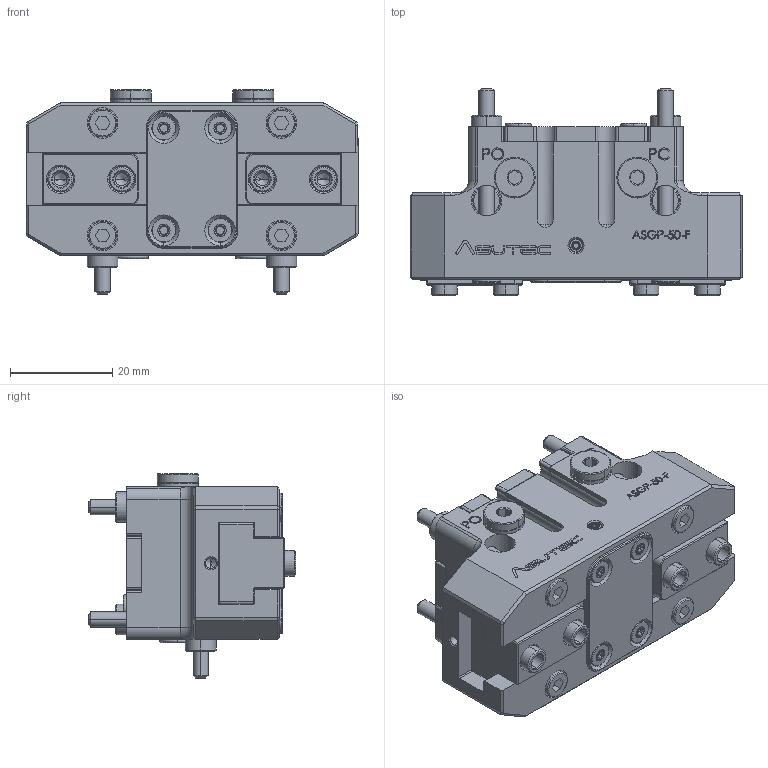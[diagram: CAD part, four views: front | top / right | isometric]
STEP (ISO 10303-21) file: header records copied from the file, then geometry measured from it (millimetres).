
FILE_DESCRIPTION (( 'STEP AP203' ), '1' );
FILE_NAME ('ASUTEC_ASGP-50-F.STEP', '2019-11-01T06:02:49', ( '' ), ( '' ), 'SwSTEP 2.0', 'SolidWorks 2015', '' );
FILE_SCHEMA (( 'CONFIG_CONTROL_DESIGN' ));
Length unit declared in the file: millimetre
Products named in the file (10): ASUTEC_ASGP-50-F; Abdeckung ASGP-50; Greiferbacke ASGP-50_ASGP-50-F <Standard>; Zentrierhuelse-konfigurierbar_D6d4.2L5; 12000092 O-Ring 5x1_Flanschdichtung <Standard>; 12000094 O-Ring 3x1_Flansch <Standard>; 14010075 Blindsstopfen Innensechskant; 10000092 M3x35 DIN912; 10000090 M3x30 DIN912; Grundgehäuse-ASGP-50_Step <Standard>
Assembly tree (20 placements, depth 2):
  ASUTEC_ASGP-50-F
    Grundgehäuse-ASGP-50_Step <Standard>
    Abdeckung ASGP-50
    Greiferbacke ASGP-50_ASGP-50-F <Standard>  x2
    Zentrierhuelse-konfigurierbar_D6d4.2L5  x4
    12000092 O-Ring 5x1_Flanschdichtung <Standard>  x2
    12000094 O-Ring 3x1_Flansch <Standard>  x2
    14010075 Blindsstopfen Innensechskant  x2
    10000092 M3x35 DIN912  x4
    10000090 M3x30 DIN912  x2
Bounding box: 65 x 40.6 x 40 mm (x, y, z)
Volume: 46361.8 mm3; surface area: 23206.6 mm2
Topology: 20 solids, 20 shells, 1726 faces, 4229 edges, 2658 vertices
Faces by surface type: cylinder 566, plane 566, cone 372, bspline 134, torus 88
Entity records: 56460 total; most frequent: CARTESIAN_POINT 21860, ORIENTED_EDGE 7252, DIRECTION 6292, EDGE_CURVE 3626, VERTEX_POINT 2304, AXIS2_PLACEMENT_3D 2272, VECTOR 1748, LINE 1748
